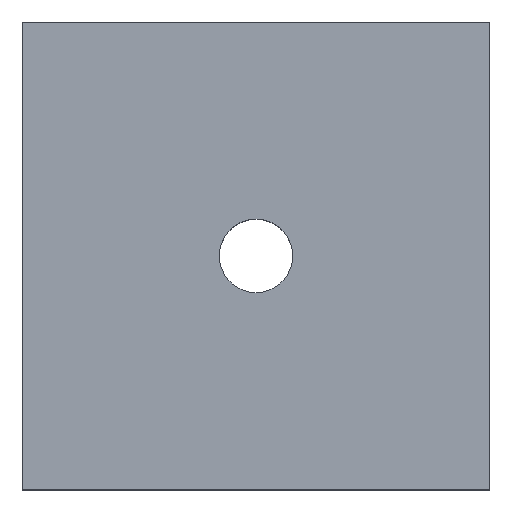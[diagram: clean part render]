
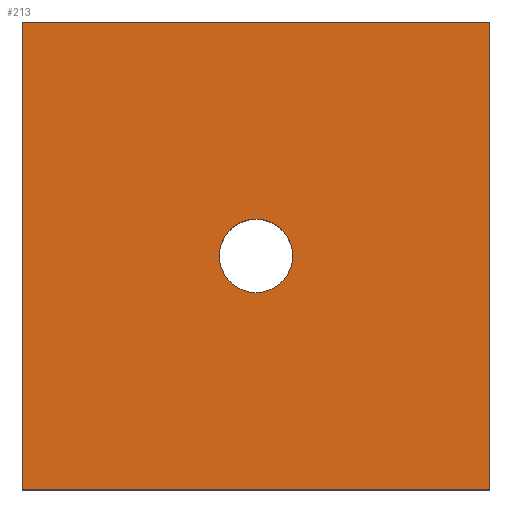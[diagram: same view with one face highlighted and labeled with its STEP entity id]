
A CAD part, top view. The second image highlights one B-rep face of the part: STEP entity #213.
In plain terms, the highlighted planar face has unit normal (0, 0, 1).
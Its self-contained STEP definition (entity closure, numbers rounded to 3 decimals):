
#24 = VERTEX_POINT('',#25);
#25 = CARTESIAN_POINT('',(0.,0.,8.));
#32 = PLANE('',#33);
#33 = AXIS2_PLACEMENT_3D('',#34,#35,#36);
#34 = CARTESIAN_POINT('',(0.,0.,0.));
#35 = DIRECTION('',(1.,0.,0.));
#36 = DIRECTION('',(0.,0.,1.));
#44 = PLANE('',#45);
#45 = AXIS2_PLACEMENT_3D('',#46,#47,#48);
#46 = CARTESIAN_POINT('',(0.,0.,0.));
#47 = DIRECTION('',(0.,1.,0.));
#48 = DIRECTION('',(0.,0.,1.));
#85 = VERTEX_POINT('',#86);
#86 = CARTESIAN_POINT('',(0.,28.,8.));
#100 = PLANE('',#101);
#101 = AXIS2_PLACEMENT_3D('',#102,#103,#104);
#102 = CARTESIAN_POINT('',(0.,28.,0.));
#103 = DIRECTION('',(0.,1.,0.));
#104 = DIRECTION('',(0.,0.,1.));
#112 = EDGE_CURVE('',#24,#85,#113,.T.);
#113 = SURFACE_CURVE('',#114,(#118,#125),.PCURVE_S1.);
#114 = LINE('',#115,#116);
#115 = CARTESIAN_POINT('',(0.,0.,8.));
#116 = VECTOR('',#117,1.);
#117 = DIRECTION('',(0.,1.,0.));
#118 = PCURVE('',#32,#119);
#119 = DEFINITIONAL_REPRESENTATION('',(#120),#124);
#120 = LINE('',#121,#122);
#121 = CARTESIAN_POINT('',(8.,0.));
#122 = VECTOR('',#123,1.);
#123 = DIRECTION('',(0.,-1.));
#124 = ( GEOMETRIC_REPRESENTATION_CONTEXT(2) 
PARAMETRIC_REPRESENTATION_CONTEXT() REPRESENTATION_CONTEXT('2D SPACE',''
  ) );
#125 = PCURVE('',#126,#131);
#126 = PLANE('',#127);
#127 = AXIS2_PLACEMENT_3D('',#128,#129,#130);
#128 = CARTESIAN_POINT('',(0.,0.,8.));
#129 = DIRECTION('',(0.,0.,1.));
#130 = DIRECTION('',(1.,0.,0.));
#131 = DEFINITIONAL_REPRESENTATION('',(#132),#136);
#132 = LINE('',#133,#134);
#133 = CARTESIAN_POINT('',(0.,0.));
#134 = VECTOR('',#135,1.);
#135 = DIRECTION('',(0.,1.));
#136 = ( GEOMETRIC_REPRESENTATION_CONTEXT(2) 
PARAMETRIC_REPRESENTATION_CONTEXT() REPRESENTATION_CONTEXT('2D SPACE',''
  ) );
#165 = EDGE_CURVE('',#24,#166,#168,.T.);
#166 = VERTEX_POINT('',#167);
#167 = CARTESIAN_POINT('',(28.,0.,8.));
#168 = SURFACE_CURVE('',#169,(#173,#180),.PCURVE_S1.);
#169 = LINE('',#170,#171);
#170 = CARTESIAN_POINT('',(0.,0.,8.));
#171 = VECTOR('',#172,1.);
#172 = DIRECTION('',(1.,0.,0.));
#173 = PCURVE('',#44,#174);
#174 = DEFINITIONAL_REPRESENTATION('',(#175),#179);
#175 = LINE('',#176,#177);
#176 = CARTESIAN_POINT('',(8.,0.));
#177 = VECTOR('',#178,1.);
#178 = DIRECTION('',(0.,1.));
#179 = ( GEOMETRIC_REPRESENTATION_CONTEXT(2) 
PARAMETRIC_REPRESENTATION_CONTEXT() REPRESENTATION_CONTEXT('2D SPACE',''
  ) );
#180 = PCURVE('',#126,#181);
#181 = DEFINITIONAL_REPRESENTATION('',(#182),#186);
#182 = LINE('',#183,#184);
#183 = CARTESIAN_POINT('',(0.,0.));
#184 = VECTOR('',#185,1.);
#185 = DIRECTION('',(1.,0.));
#186 = ( GEOMETRIC_REPRESENTATION_CONTEXT(2) 
PARAMETRIC_REPRESENTATION_CONTEXT() REPRESENTATION_CONTEXT('2D SPACE',''
  ) );
#202 = PLANE('',#203);
#203 = AXIS2_PLACEMENT_3D('',#204,#205,#206);
#204 = CARTESIAN_POINT('',(28.,0.,0.));
#205 = DIRECTION('',(1.,0.,0.));
#206 = DIRECTION('',(0.,0.,1.));
#213 = ADVANCED_FACE('',(#214,#262),#126,.T.);
#214 = FACE_BOUND('',#215,.T.);
#215 = EDGE_LOOP('',(#216,#217,#218,#241));
#216 = ORIENTED_EDGE('',*,*,#112,.F.);
#217 = ORIENTED_EDGE('',*,*,#165,.T.);
#218 = ORIENTED_EDGE('',*,*,#219,.T.);
#219 = EDGE_CURVE('',#166,#220,#222,.T.);
#220 = VERTEX_POINT('',#221);
#221 = CARTESIAN_POINT('',(28.,28.,8.));
#222 = SURFACE_CURVE('',#223,(#227,#234),.PCURVE_S1.);
#223 = LINE('',#224,#225);
#224 = CARTESIAN_POINT('',(28.,0.,8.));
#225 = VECTOR('',#226,1.);
#226 = DIRECTION('',(0.,1.,0.));
#227 = PCURVE('',#126,#228);
#228 = DEFINITIONAL_REPRESENTATION('',(#229),#233);
#229 = LINE('',#230,#231);
#230 = CARTESIAN_POINT('',(28.,0.));
#231 = VECTOR('',#232,1.);
#232 = DIRECTION('',(0.,1.));
#233 = ( GEOMETRIC_REPRESENTATION_CONTEXT(2) 
PARAMETRIC_REPRESENTATION_CONTEXT() REPRESENTATION_CONTEXT('2D SPACE',''
  ) );
#234 = PCURVE('',#202,#235);
#235 = DEFINITIONAL_REPRESENTATION('',(#236),#240);
#236 = LINE('',#237,#238);
#237 = CARTESIAN_POINT('',(8.,0.));
#238 = VECTOR('',#239,1.);
#239 = DIRECTION('',(0.,-1.));
#240 = ( GEOMETRIC_REPRESENTATION_CONTEXT(2) 
PARAMETRIC_REPRESENTATION_CONTEXT() REPRESENTATION_CONTEXT('2D SPACE',''
  ) );
#241 = ORIENTED_EDGE('',*,*,#242,.F.);
#242 = EDGE_CURVE('',#85,#220,#243,.T.);
#243 = SURFACE_CURVE('',#244,(#248,#255),.PCURVE_S1.);
#244 = LINE('',#245,#246);
#245 = CARTESIAN_POINT('',(0.,28.,8.));
#246 = VECTOR('',#247,1.);
#247 = DIRECTION('',(1.,0.,0.));
#248 = PCURVE('',#126,#249);
#249 = DEFINITIONAL_REPRESENTATION('',(#250),#254);
#250 = LINE('',#251,#252);
#251 = CARTESIAN_POINT('',(0.,28.));
#252 = VECTOR('',#253,1.);
#253 = DIRECTION('',(1.,0.));
#254 = ( GEOMETRIC_REPRESENTATION_CONTEXT(2) 
PARAMETRIC_REPRESENTATION_CONTEXT() REPRESENTATION_CONTEXT('2D SPACE',''
  ) );
#255 = PCURVE('',#100,#256);
#256 = DEFINITIONAL_REPRESENTATION('',(#257),#261);
#257 = LINE('',#258,#259);
#258 = CARTESIAN_POINT('',(8.,0.));
#259 = VECTOR('',#260,1.);
#260 = DIRECTION('',(0.,1.));
#261 = ( GEOMETRIC_REPRESENTATION_CONTEXT(2) 
PARAMETRIC_REPRESENTATION_CONTEXT() REPRESENTATION_CONTEXT('2D SPACE',''
  ) );
#262 = FACE_BOUND('',#263,.T.);
#263 = EDGE_LOOP('',(#264));
#264 = ORIENTED_EDGE('',*,*,#265,.T.);
#265 = EDGE_CURVE('',#266,#266,#268,.T.);
#266 = VERTEX_POINT('',#267);
#267 = CARTESIAN_POINT('',(16.2,14.,8.));
#268 = SURFACE_CURVE('',#269,(#274,#285),.PCURVE_S1.);
#269 = CIRCLE('',#270,2.2);
#270 = AXIS2_PLACEMENT_3D('',#271,#272,#273);
#271 = CARTESIAN_POINT('',(14.,14.,8.));
#272 = DIRECTION('',(0.,0.,-1.));
#273 = DIRECTION('',(1.,0.,0.));
#274 = PCURVE('',#126,#275);
#275 = DEFINITIONAL_REPRESENTATION('',(#276),#284);
#276 = ( BOUNDED_CURVE() B_SPLINE_CURVE(2,(#277,#278,#279,#280,#281,#282
,#283),.UNSPECIFIED.,.T.,.F.) B_SPLINE_CURVE_WITH_KNOTS((1,2,2,2,2,1),(
    -2.094,0.,2.094,4.189,6.283,
8.378),.UNSPECIFIED.) CURVE() GEOMETRIC_REPRESENTATION_ITEM() 
RATIONAL_B_SPLINE_CURVE((1.,0.5,1.,0.5,1.,0.5,1.)) REPRESENTATION_ITEM(
  '') );
#277 = CARTESIAN_POINT('',(16.2,14.));
#278 = CARTESIAN_POINT('',(16.2,10.189));
#279 = CARTESIAN_POINT('',(12.9,12.095));
#280 = CARTESIAN_POINT('',(9.6,14.));
#281 = CARTESIAN_POINT('',(12.9,15.905));
#282 = CARTESIAN_POINT('',(16.2,17.811));
#283 = CARTESIAN_POINT('',(16.2,14.));
#284 = ( GEOMETRIC_REPRESENTATION_CONTEXT(2) 
PARAMETRIC_REPRESENTATION_CONTEXT() REPRESENTATION_CONTEXT('2D SPACE',''
  ) );
#285 = PCURVE('',#286,#291);
#286 = CYLINDRICAL_SURFACE('',#287,2.2);
#287 = AXIS2_PLACEMENT_3D('',#288,#289,#290);
#288 = CARTESIAN_POINT('',(14.,14.,-10.));
#289 = DIRECTION('',(-0.,-0.,-1.));
#290 = DIRECTION('',(1.,0.,0.));
#291 = DEFINITIONAL_REPRESENTATION('',(#292),#296);
#292 = LINE('',#293,#294);
#293 = CARTESIAN_POINT('',(-6.283,-18.));
#294 = VECTOR('',#295,1.);
#295 = DIRECTION('',(1.,-0.));
#296 = ( GEOMETRIC_REPRESENTATION_CONTEXT(2) 
PARAMETRIC_REPRESENTATION_CONTEXT() REPRESENTATION_CONTEXT('2D SPACE',''
  ) );
